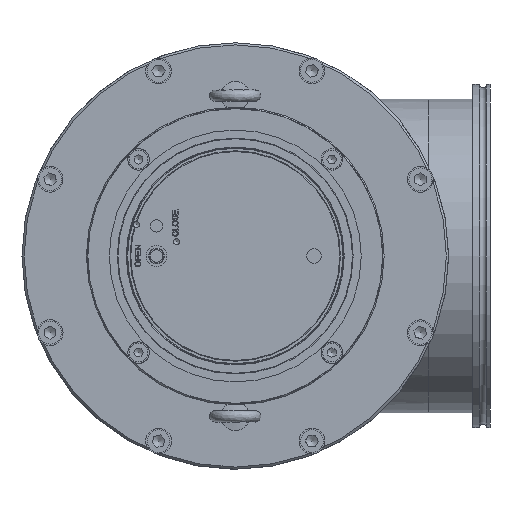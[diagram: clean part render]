
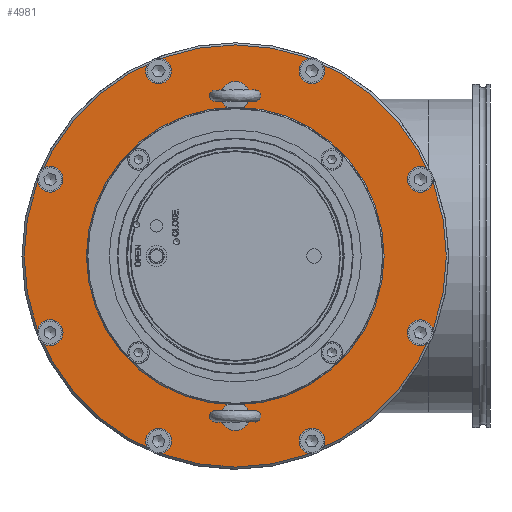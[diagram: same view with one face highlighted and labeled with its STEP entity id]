
A CAD part, left-side view. The second image highlights one B-rep face of the part: STEP entity #4981.
In plain terms, the highlighted planar face has unit normal (-1, 0, 0).
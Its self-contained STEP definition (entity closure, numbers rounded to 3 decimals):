
#4592=FACE_BOUND('',#5735,.T.);
#4593=FACE_BOUND('',#5736,.T.);
#4594=FACE_BOUND('',#5737,.T.);
#4595=FACE_BOUND('',#5738,.T.);
#4596=FACE_BOUND('',#5739,.T.);
#4597=FACE_BOUND('',#5740,.T.);
#4598=FACE_BOUND('',#5741,.T.);
#4599=FACE_BOUND('',#5742,.T.);
#4600=FACE_BOUND('',#5743,.T.);
#4601=FACE_BOUND('',#5744,.T.);
#4602=FACE_BOUND('',#5745,.T.);
#4603=FACE_BOUND('',#5746,.T.);
#4604=FACE_BOUND('',#5747,.T.);
#4605=FACE_BOUND('',#5748,.T.);
#4606=FACE_BOUND('',#5749,.T.);
#4607=FACE_BOUND('',#5750,.T.);
#4981=ADVANCED_FACE('BCT_REF_68270',(#4592,#4593,#4594,#4595,#4596,#4597,
#4598,#4599,#4600,#4601,#4602,#4603,#4604,#4605,#4606,#4607),#5235,.F.);
#5235=PLANE('',#8658);
#5735=EDGE_LOOP('',(#6479));
#5736=EDGE_LOOP('',(#6480));
#5737=EDGE_LOOP('',(#6481));
#5738=EDGE_LOOP('',(#6482));
#5739=EDGE_LOOP('',(#6483));
#5740=EDGE_LOOP('',(#6484));
#5741=EDGE_LOOP('',(#6485));
#5742=EDGE_LOOP('',(#6486));
#5743=EDGE_LOOP('',(#6487));
#5744=EDGE_LOOP('',(#6488));
#5745=EDGE_LOOP('',(#6489));
#5746=EDGE_LOOP('',(#6490));
#5747=EDGE_LOOP('',(#6491));
#5748=EDGE_LOOP('',(#6492));
#5749=EDGE_LOOP('',(#6493));
#5750=EDGE_LOOP('',(#6494));
#6479=ORIENTED_EDGE('',*,*,#7790,.T.);
#6480=ORIENTED_EDGE('',*,*,#7791,.T.);
#6481=ORIENTED_EDGE('',*,*,#7792,.F.);
#6482=ORIENTED_EDGE('',*,*,#7793,.T.);
#6483=ORIENTED_EDGE('',*,*,#7794,.T.);
#6484=ORIENTED_EDGE('',*,*,#7795,.T.);
#6485=ORIENTED_EDGE('',*,*,#7796,.T.);
#6486=ORIENTED_EDGE('',*,*,#7797,.T.);
#6487=ORIENTED_EDGE('',*,*,#7798,.T.);
#6488=ORIENTED_EDGE('',*,*,#7799,.T.);
#6489=ORIENTED_EDGE('',*,*,#7800,.T.);
#6490=ORIENTED_EDGE('',*,*,#7801,.T.);
#6491=ORIENTED_EDGE('',*,*,#7802,.T.);
#6492=ORIENTED_EDGE('',*,*,#7803,.T.);
#6493=ORIENTED_EDGE('',*,*,#7804,.T.);
#6494=ORIENTED_EDGE('',*,*,#7805,.T.);
#7317=VERTEX_POINT('',#12222);
#7318=VERTEX_POINT('',#12224);
#7319=VERTEX_POINT('',#12226);
#7320=VERTEX_POINT('',#12228);
#7321=VERTEX_POINT('',#12230);
#7322=VERTEX_POINT('',#12232);
#7323=VERTEX_POINT('',#12234);
#7324=VERTEX_POINT('',#12236);
#7325=VERTEX_POINT('',#12238);
#7326=VERTEX_POINT('',#12240);
#7327=VERTEX_POINT('',#12242);
#7328=VERTEX_POINT('',#12244);
#7329=VERTEX_POINT('',#12246);
#7330=VERTEX_POINT('',#12248);
#7331=VERTEX_POINT('',#12250);
#7332=VERTEX_POINT('',#12252);
#7790=EDGE_CURVE('BCT_REF_68195',#7317,#7317,#8238,.T.);
#7791=EDGE_CURVE('BCT_REF_68231',#7318,#7318,#8239,.T.);
#7792=EDGE_CURVE('',#7319,#7319,#8240,.T.);
#7793=EDGE_CURVE('',#7320,#7320,#8241,.T.);
#7794=EDGE_CURVE('',#7321,#7321,#8242,.T.);
#7795=EDGE_CURVE('',#7322,#7322,#8243,.T.);
#7796=EDGE_CURVE('',#7323,#7323,#8244,.T.);
#7797=EDGE_CURVE('',#7324,#7324,#8245,.T.);
#7798=EDGE_CURVE('',#7325,#7325,#8246,.T.);
#7799=EDGE_CURVE('',#7326,#7326,#8247,.T.);
#7800=EDGE_CURVE('',#7327,#7327,#8248,.T.);
#7801=EDGE_CURVE('',#7328,#7328,#8249,.T.);
#7802=EDGE_CURVE('',#7329,#7329,#8250,.T.);
#7803=EDGE_CURVE('',#7330,#7330,#8251,.T.);
#7804=EDGE_CURVE('',#7331,#7331,#8252,.T.);
#7805=EDGE_CURVE('',#7332,#7332,#8253,.T.);
#8238=CIRCLE('',#8642,88.75);
#8239=CIRCLE('',#8643,147.5);
#8240=CIRCLE('',#8644,3.4);
#8241=CIRCLE('',#8645,3.4);
#8242=CIRCLE('',#8646,4.25);
#8243=CIRCLE('',#8647,4.25);
#8244=CIRCLE('',#8648,4.25);
#8245=CIRCLE('',#8649,4.25);
#8246=CIRCLE('',#8650,5.5);
#8247=CIRCLE('',#8651,5.5);
#8248=CIRCLE('',#8652,5.5);
#8249=CIRCLE('',#8653,5.5);
#8250=CIRCLE('',#8654,5.5);
#8251=CIRCLE('',#8655,5.5);
#8252=CIRCLE('',#8656,5.5);
#8253=CIRCLE('',#8657,5.5);
#8642=AXIS2_PLACEMENT_3D('',#12221,#9600,#9601);
#8643=AXIS2_PLACEMENT_3D('',#12223,#9602,#9603);
#8644=AXIS2_PLACEMENT_3D('',#12225,#9604,#9605);
#8645=AXIS2_PLACEMENT_3D('',#12227,#9606,#9607);
#8646=AXIS2_PLACEMENT_3D('',#12229,#9608,#9609);
#8647=AXIS2_PLACEMENT_3D('',#12231,#9610,#9611);
#8648=AXIS2_PLACEMENT_3D('',#12233,#9612,#9613);
#8649=AXIS2_PLACEMENT_3D('',#12235,#9614,#9615);
#8650=AXIS2_PLACEMENT_3D('',#12237,#9616,#9617);
#8651=AXIS2_PLACEMENT_3D('',#12239,#9618,#9619);
#8652=AXIS2_PLACEMENT_3D('',#12241,#9620,#9621);
#8653=AXIS2_PLACEMENT_3D('',#12243,#9622,#9623);
#8654=AXIS2_PLACEMENT_3D('',#12245,#9624,#9625);
#8655=AXIS2_PLACEMENT_3D('',#12247,#9626,#9627);
#8656=AXIS2_PLACEMENT_3D('',#12249,#9628,#9629);
#8657=AXIS2_PLACEMENT_3D('',#12251,#9630,#9631);
#8658=AXIS2_PLACEMENT_3D('',#12253,#9632,#9633);
#9600=DIRECTION('',(1.,0.,0.));
#9601=DIRECTION('',(0.,0.,-1.));
#9602=DIRECTION('',(-1.,0.,0.));
#9603=DIRECTION('',(0.,0.,-1.));
#9604=DIRECTION('',(-1.,0.,0.));
#9605=DIRECTION('',(0.,0.,-1.));
#9606=DIRECTION('',(1.,0.,0.));
#9607=DIRECTION('',(0.,0.,-1.));
#9608=DIRECTION('',(1.,0.,0.));
#9609=DIRECTION('',(0.,-1.,0.));
#9610=DIRECTION('',(1.,0.,0.));
#9611=DIRECTION('',(0.,0.,1.));
#9612=DIRECTION('',(1.,0.,0.));
#9613=DIRECTION('',(0.,1.,0.));
#9614=DIRECTION('',(1.,0.,0.));
#9615=DIRECTION('',(0.,0.,-1.));
#9616=DIRECTION('',(1.,0.,0.));
#9617=DIRECTION('',(0.,-0.707,-0.707));
#9618=DIRECTION('',(1.,0.,0.));
#9619=DIRECTION('',(0.,-1.,0.));
#9620=DIRECTION('',(1.,0.,0.));
#9621=DIRECTION('',(0.,-0.707,0.707));
#9622=DIRECTION('',(1.,0.,0.));
#9623=DIRECTION('',(0.,0.,1.));
#9624=DIRECTION('',(1.,0.,0.));
#9625=DIRECTION('',(0.,0.707,0.707));
#9626=DIRECTION('',(1.,0.,0.));
#9627=DIRECTION('',(0.,1.,0.));
#9628=DIRECTION('',(1.,0.,0.));
#9629=DIRECTION('',(0.,0.707,-0.707));
#9630=DIRECTION('',(1.,0.,0.));
#9631=DIRECTION('',(0.,0.,-1.));
#9632=DIRECTION('',(1.,0.,0.));
#9633=DIRECTION('',(0.,0.,-1.));
#12221=CARTESIAN_POINT('',(0.,0.,0.));
#12222=CARTESIAN_POINT('',(0.,0.,-88.75));
#12223=CARTESIAN_POINT('',(0.,0.,0.));
#12224=CARTESIAN_POINT('',(0.,0.,-147.5));
#12225=CARTESIAN_POINT('',(0.,-112.,0.));
#12226=CARTESIAN_POINT('',(0.,-112.,-3.4));
#12227=CARTESIAN_POINT('',(0.,112.,0.));
#12228=CARTESIAN_POINT('',(0.,112.,-3.4));
#12229=CARTESIAN_POINT('',(0.,67.529,67.529));
#12230=CARTESIAN_POINT('',(0.,63.279,67.529));
#12231=CARTESIAN_POINT('',(0.,67.529,-67.529));
#12232=CARTESIAN_POINT('',(0.,67.529,-63.279));
#12233=CARTESIAN_POINT('',(0.,-67.529,-67.529));
#12234=CARTESIAN_POINT('',(0.,-63.279,-67.529));
#12235=CARTESIAN_POINT('',(0.,-67.529,67.529));
#12236=CARTESIAN_POINT('',(0.,-67.529,63.279));
#12237=CARTESIAN_POINT('',(0.,53.576,129.343));
#12238=CARTESIAN_POINT('',(0.,49.687,125.454));
#12239=CARTESIAN_POINT('',(0.,129.343,53.576));
#12240=CARTESIAN_POINT('',(0.,123.843,53.576));
#12241=CARTESIAN_POINT('',(0.,129.343,-53.576));
#12242=CARTESIAN_POINT('',(0.,125.454,-49.687));
#12243=CARTESIAN_POINT('',(0.,53.576,-129.343));
#12244=CARTESIAN_POINT('',(0.,53.576,-123.843));
#12245=CARTESIAN_POINT('',(0.,-53.576,-129.343));
#12246=CARTESIAN_POINT('',(0.,-49.687,-125.454));
#12247=CARTESIAN_POINT('',(0.,-129.343,-53.576));
#12248=CARTESIAN_POINT('',(0.,-123.843,-53.576));
#12249=CARTESIAN_POINT('',(0.,-129.343,53.576));
#12250=CARTESIAN_POINT('',(0.,-125.454,49.687));
#12251=CARTESIAN_POINT('',(0.,-53.576,129.343));
#12252=CARTESIAN_POINT('',(0.,-53.576,123.843));
#12253=CARTESIAN_POINT('',(0.,0.,149.));
